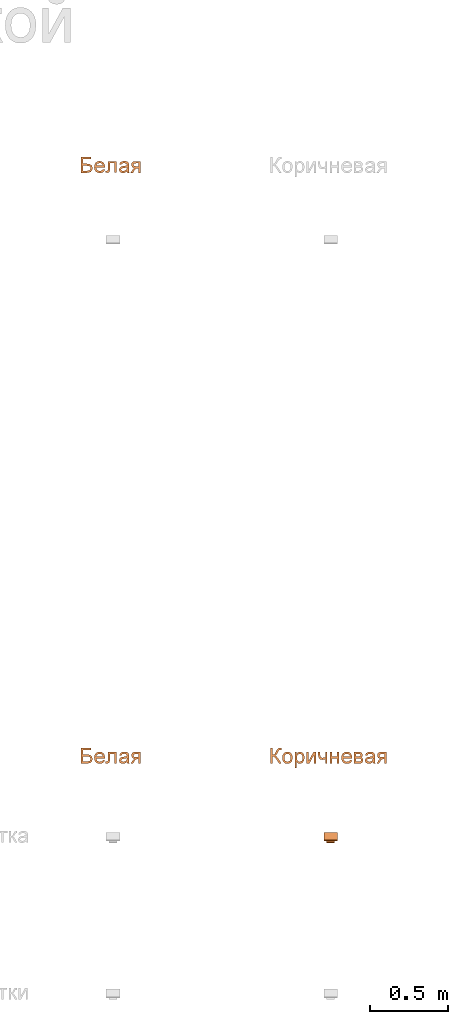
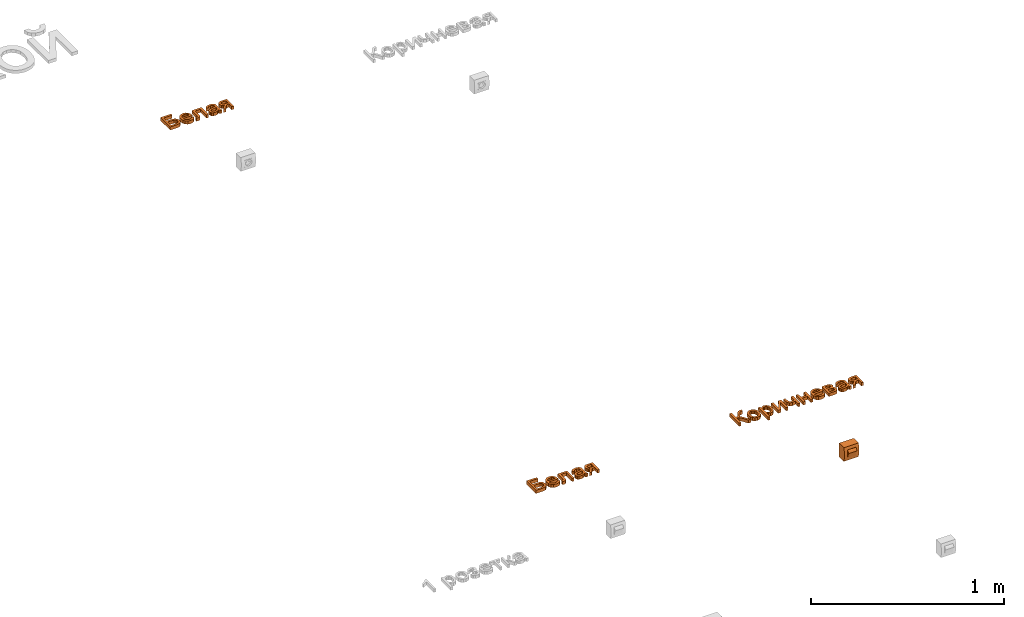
# One storey, part 65 of 87: 4 proxies.
"""IFC2X3 building model written with IfcOpenShell, lengths in millimetres."""

from ifc_helpers import new_model, entity, si_unit, converted_unit, derived_unit, direction, frame, frame_2d, origin, place, context, subcontext, project, spatial, polyline, circle_curve, parameter, trimmed, segment, composite_curve, outline, extrude, source, transform, mapped, material, type_object, type_shapes, element, save


model = new_model("IFC2X3")

# Units and contexts
model_context = context("Model", 3, precision=0.01, world=origin(), true_north=direction((6.12303176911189e-17, 1.0)))
body_context = subcontext(model_context, "Body", "Model", "MODEL_VIEW")
ifc_project = project(units=[si_unit("LENGTHUNIT", "METRE", prefix="MILLI"), si_unit("AREAUNIT", "SQUARE_METRE"), si_unit("VOLUMEUNIT", "CUBIC_METRE"), converted_unit("PLANEANGLEUNIT", "DEGREE", entity("IfcRatioMeasure", 0.0174532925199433), si_unit("PLANEANGLEUNIT", "RADIAN"), dimensions=[0, 0, 0, 0, 0, 0, 0]), si_unit("MASSUNIT", "GRAM", prefix="KILO"), derived_unit("MASSDENSITYUNIT", [(si_unit("MASSUNIT", "GRAM", prefix="KILO"), 1), (si_unit("LENGTHUNIT", "METRE"), -3)]), si_unit("TIMEUNIT", "SECOND"), si_unit("FREQUENCYUNIT", "HERTZ"), si_unit("THERMODYNAMICTEMPERATUREUNIT", "DEGREE_CELSIUS"), derived_unit("THERMALTRANSMITTANCEUNIT", [(si_unit("MASSUNIT", "GRAM", prefix="KILO"), 1), (si_unit("THERMODYNAMICTEMPERATUREUNIT", "KELVIN"), -1), (si_unit("TIMEUNIT", "SECOND"), -3)]), derived_unit("VOLUMETRICFLOWRATEUNIT", [(si_unit("LENGTHUNIT", "METRE"), 3), (si_unit("TIMEUNIT", "SECOND"), -1)]), si_unit("ELECTRICCURRENTUNIT", "AMPERE"), si_unit("ELECTRICVOLTAGEUNIT", "VOLT"), si_unit("POWERUNIT", "WATT"), si_unit("FORCEUNIT", "NEWTON", prefix="KILO"), si_unit("ILLUMINANCEUNIT", "LUX"), si_unit("LUMINOUSFLUXUNIT", "LUMEN"), si_unit("LUMINOUSINTENSITYUNIT", "CANDELA"), derived_unit("USERDEFINED", [(si_unit("MASSUNIT", "GRAM", prefix="KILO"), -1), (si_unit("LENGTHUNIT", "METRE"), -2), (si_unit("TIMEUNIT", "SECOND"), 3), (si_unit("LUMINOUSFLUXUNIT", "LUMEN"), 1)]), derived_unit("LINEARVELOCITYUNIT", [(si_unit("LENGTHUNIT", "METRE"), 1), (si_unit("TIMEUNIT", "SECOND"), -1)]), si_unit("PRESSUREUNIT", "PASCAL"), derived_unit("USERDEFINED", [(si_unit("LENGTHUNIT", "METRE"), -2), (si_unit("MASSUNIT", "GRAM", prefix="KILO"), 1), (si_unit("TIMEUNIT", "SECOND"), -2)])], contexts=[model_context])

# Site, building, storey
site_placement = place(None, origin())
site = spatial("IfcSite", under=ifc_project, at=site_placement, Name="Default", CompositionType="ELEMENT")
building_placement = place(site_placement, origin())
building = spatial("IfcBuilding", under=site, at=building_placement, Name="Наименование здания", CompositionType="ELEMENT")
storey_placement = place(building_placement, origin())
storey = spatial("IfcBuildingStorey", under=building, at=storey_placement, Name="Этаж 01", CompositionType="ELEMENT", Elevation=0.0)

# Proxies
ifc_material = material(Name="DKC_Пластик_Коричневый")
building_element_proxy_type = type_object("IfcBuildingElementProxyType", Name="Коричневая", PredefinedType="NOTDEFINED", material=ifc_material)
shared_shape = source(origin(), body_context, "Body", "SweptSolid", [
    extrude(outline(composite_curve([segment(trimmed(circle_curve(frame_2d((6.58148347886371, 5.82942830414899), x_axis=(1.0, 0.0)), 18.452960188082), [parameter(108.397599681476)], [parameter(174.983430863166)], True, "PARAMETER"), True, "CONTINUOUS"), segment(polyline([(-11.8007917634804, 7.44302571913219), (0.75755790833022, -27.060756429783)]), True, "CONTINUOUS"), segment(polyline([(0.75755790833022, -27.060756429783), (5.1428379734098, -27.0607564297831)]), True, "CONTINUOUS"), segment(polyline([(5.1428379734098, -27.0607564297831), (5.14283797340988, 23.339243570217)]), True, "CONTINUOUS"), segment(polyline([(5.14283797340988, 23.339243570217), (0.757557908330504, 23.339243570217)]), True, "CONTINUOUS")], self_intersect=False)), frame((-25.2, -53.8992082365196, 1.86075642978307), z_axis=(1.0, 0.0, 0.0), x_axis=(0.0, 1.0, 0.0)), (0.0, 0.0, 1.0), 50.4),
    extrude(outline(composite_curve([segment(polyline([(-43.5500000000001, -24.3781851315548), (43.5500000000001, -24.3781851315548)]), True, "CONTINUOUS"), segment(polyline([(43.5500000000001, -24.3781851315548), (43.5499999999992, 24.3781851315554)]), True, "CONTINUOUS"), segment(trimmed(circle_curve(frame_2d((0.0, -117.269759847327), x_axis=(0.0, -1.0)), 148.191574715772), [parameter(162.90982899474)], [parameter(197.09017100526)], True, "PARAMETER"), True, "CONTINUOUS"), segment(polyline([(-43.5500000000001, 24.3781851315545), (-43.5500000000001, -24.3781851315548)]), True, "CONTINUOUS")], self_intersect=False)), frame((-43.85, -24.3781851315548, 0.0), z_axis=(1.0, 0.0, 0.0), x_axis=(0.0, 0.0, 1.0)), (0.0, 0.0, 1.0), 87.7),
])
type_shapes(building_element_proxy_type, [shared_shape])
proxy_1_placement = place(storey_placement, frame((61127.9064877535, 127.135593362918, 0.0)))
element("IfcBuildingElementProxy", 1, at=proxy_1_placement, inside=storey, type_object=building_element_proxy_type, material=ifc_material, Name="КНС_КоробкаВСбореСРозеткойRJ-45_ILF_DKC:Коричневая", ObjectType="Коричневая", context=body_context, shape_type="MappedRepresentation", body=[
    mapped(shared_shape, transform((0.0, 0.0, 0.0), scale=1.0)),
])
proxy_2_placement = place(storey_placement, origin())
element("IfcBuildingElementProxy", 2, at=proxy_2_placement, inside=storey, Name="Текст модели:100 мм Arial", ObjectType="Текст модели:100 мм Arial", context=body_context, shape_type="SweptSolid", body=[
    extrude(outline(polyline([(-50.9950475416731, -42.7620371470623), (49.4612626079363, -42.7620371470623), (49.4612626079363, -4.42873324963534), (45.2428823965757, 17.8649156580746), (34.3658380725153, 27.7118903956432), (20.055228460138, 31.0105656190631), (3.57411507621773, 26.3752524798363), (-6.06439319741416, 14.0389429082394), (-8.61504169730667, -6.68507615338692), (-8.61504169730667, -30.2049983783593), (-38.4380087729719, -30.2049983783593), (-38.4380087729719, 20.0231566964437), (-50.9950475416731, 20.0231566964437), (-50.9950475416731, -42.7620371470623)]), holes=[polyline([(36.9042238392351, -30.2049983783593), (3.9419970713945, -30.2049983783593), (3.9419970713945, -12.2523570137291), (5.24184678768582, 6.66904027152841), (10.4902965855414, 15.3387926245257), (20.3250085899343, 18.4535268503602), (27.5784152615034, 17.0923634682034), (32.7594200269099, 13.0088733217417), (36.9042238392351, -3.30056179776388), (36.9042238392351, -30.2049983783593)])]), frame((59565.51887875, 621.336447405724, 0.0), z_axis=(0.0, 0.0, 1.0), x_axis=(0.0, -1.0, 0.0)), (0.0, 0.0, 1.0), 20.0),
    extrude(outline(polyline([(-8.10128238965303, -20.3751729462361), (-15.5352214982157, -30.3140016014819), (-5.78400372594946, -33.5775071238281), (4.12185089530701, -33.3132173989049), (13.8776168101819, -29.4480778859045), (23.1785684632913, -21.9090340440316), (31.638042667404, -9.59237957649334), (34.1620486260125, 3.74135328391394), (30.60405086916, 17.244220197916), (20.8175139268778, 30.0682768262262), (7.27698270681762, 39.7846728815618), (-6.6617952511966, 43.1117813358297), (-19.9642596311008, 40.4221234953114), (-31.5958501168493, 32.0882206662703), (-39.2435519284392, 20.5090048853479), (-41.3106827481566, 7.34319797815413), (-37.4373707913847, -6.34962495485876), (-27.263744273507, -19.5098888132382), (-24.7804584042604, -21.810680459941), (14.4643272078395, 18.7422646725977), (19.7071986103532, 10.6437992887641), (21.1614672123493, 2.21005051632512), (19.14720855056, -5.98136753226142), (13.9844981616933, -13.3528407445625), (3.53684605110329, -20.3751729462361), (-8.10128238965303, -20.3751729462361)]), holes=[polyline([(5.44081225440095, 27.4746984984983), (-25.1227061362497, -4.10760383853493), (-29.8038819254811, 7.41909510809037), (-27.8851342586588, 15.749871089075), (-22.5382240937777, 23.3910349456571), (-8.40970331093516, 31.2368652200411), (-1.08072680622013, 30.9147288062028), (5.44081225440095, 27.4746984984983)])]), frame((59643.6009266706, 602.197735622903, 0.0), z_axis=(0.0, 0.0, -1.0), x_axis=(-0.695421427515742, -0.718602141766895, 0.0)), (0.0, 0.0, -1.0), 20.0),
    extrude(outline(polyline([(-49.3689973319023, 12.5447760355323), (-49.3689973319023, -43.9618984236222), (24.3300290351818, -43.9618984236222), (24.3300290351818, -31.4048596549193), (-36.8119585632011, -31.4048596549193), (-36.8119585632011, -0.0122627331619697), (-1.61791435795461, -0.0122627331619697), (14.6179443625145, 0.833865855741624), (21.4728122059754, 5.48144172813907), (24.4036054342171, 16.4688506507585), (23.765943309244, 26.6714446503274), (11.846566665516, 26.6714446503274), (11.846566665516, 21.0551128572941), (11.0740144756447, 15.3774673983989), (8.62146784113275, 13.1088617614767), (-2.32915288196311, 12.5447760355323), (-49.3689973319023, 12.5447760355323)])), frame((59707.9609007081, 596.278790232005, 0.0), z_axis=(0.0, 0.0, -1.0), x_axis=(0.0, -1.0, 0.0)), (0.0, 0.0, -1.0), 20.0),
    extrude(outline(polyline([(32.0508237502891, 7.88266535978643), (41.9780345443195, 7.88266535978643), (45.9489188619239, 19.7953183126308), (35.141443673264, 20.7608946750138), (14.2438893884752, 27.0545912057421), (-0.577126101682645, 31.9949297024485), (-11.1945882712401, 34.8877809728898), (-20.4974705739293, 33.9299602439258), (-28.5323068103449, 27.5470739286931), (-35.461965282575, 13.8157249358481), (-38.3044049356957, -2.6998964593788), (-34.9462156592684, -15.3493345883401), (-25.0306383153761, -24.3807697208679), (-19.5706723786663, -12.9644773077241), (-25.7868125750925, -4.50695904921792), (-24.0611841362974, 8.30922519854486), (-16.2279943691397, 20.3304570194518), (-6.33956174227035, 20.6794605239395), (-3.71040200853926, 19.725517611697), (-6.50243004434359, -2.30048133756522), (-8.14662433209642, -13.2049019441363), (-7.01817966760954, -22.8490321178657), (-2.17478658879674, -31.1204151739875), (6.48825595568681, -36.541602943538), (15.0010331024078, -37.7020395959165), (22.9495879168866, -35.3200906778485), (29.637852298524, -29.3899394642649), (34.3697581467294, -19.9057692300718), (36.2737661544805, -6.36055543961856), (32.0508237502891, 7.88266535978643)]), holes=[polyline([(8.22551784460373, 15.8244339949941), (11.5759514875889, 14.6300664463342), (20.1614376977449, 9.6742166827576), (24.4696920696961, -0.396473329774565), (23.3024692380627, -13.3987927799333), (17.2491973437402, -22.9498553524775), (9.62153186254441, -24.349747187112), (5.58084684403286, -21.1932043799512), (3.98706417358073, -15.5044472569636), (5.47226797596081, -4.61166010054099), (8.22551784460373, 15.8244339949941)])]), frame((59800.2337393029, 609.206327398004, 0.0), z_axis=(0.0, 0.0, 1.0), x_axis=(0.316227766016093, -0.948683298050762, 0.0)), (0.0, 0.0, 1.0), 20.0),
    extrude(outline(polyline([(-36.1880068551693, -39.1855638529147), (-3.42198381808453, -39.1855638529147), (7.43666640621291, -37.7079045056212), (15.3890488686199, -33.2749264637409), (20.2634853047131, -26.4691095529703), (21.8882974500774, -17.8729335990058), (17.130356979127, -3.64816311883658), (11.0970922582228, 1.34890064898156), (2.51317903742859, 3.97925691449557), (13.2062823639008, 14.4271055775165), (25.8123720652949, 34.5870389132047), (11.2932959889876, 34.5870389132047), (1.28690572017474, 18.645485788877), (-7.46868576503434, 7.92785699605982), (-16.7883629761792, 6.3337016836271), (-23.6309680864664, 6.3337016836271), (-23.6309680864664, 34.5870389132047), (-36.1880068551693, 34.5870389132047), (-36.1880068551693, -39.1855638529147)]), holes=[polyline([(-23.6309680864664, -26.6285250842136), (-23.6309680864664, -6.22333708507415), (-10.7796237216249, -6.22333708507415), (4.90441200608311, -8.81077378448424), (9.33125868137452, -16.9164404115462), (6.32688905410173, -23.7222573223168), (-7.07627830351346, -26.6285250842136), (-23.6309680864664, -26.6285250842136)])]), frame((59867.988887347, 606.462223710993, 0.0), z_axis=(0.0, 0.0, 1.0), x_axis=(-1.0, 0.0, 0.0)), (0.0, 0.0, 1.0), 20.0),
])
proxy_3_placement = place(storey_placement, origin())
element("IfcBuildingElementProxy", 3, at=proxy_3_placement, inside=storey, Name="Текст модели:100 мм Arial", ObjectType="Текст модели:100 мм Arial", context=body_context, shape_type="SweptSolid", body=[
    extrude(outline(polyline([(-40.1432833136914, -39.8663907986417), (60.313026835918, -39.8663907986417), (60.313026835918, -27.3093520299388), (13.2241314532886, -27.3093520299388), (17.2340452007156, -14.2250157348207), (32.0106386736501, -1.65571423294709), (60.313026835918, 16.1988252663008), (60.313026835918, 30.766952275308), (26.8112398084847, 9.65052575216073), (14.9777022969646, 0.0917252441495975), (9.30005683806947, -9.60196532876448), (4.10065797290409, -0.932212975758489), (-24.5696121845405, 15.414010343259), (-27.5862445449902, 25.2241968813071), (-27.4390917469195, 30.766952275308), (-39.9961305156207, 30.766952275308), (-40.1432833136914, 22.5263955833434), (-37.3228546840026, 11.305994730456), (-30.3698849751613, 3.45784550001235), (-16.3290554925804, -3.47059874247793), (0.483151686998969, -13.2685225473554), (3.80635237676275, -27.3093520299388), (-40.1432833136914, -27.3093520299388), (-40.1432833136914, -39.8663907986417)])), frame((60780.5461702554, 632.188211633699, 0.0), z_axis=(0.0, 0.0, 1.0), x_axis=(0.0, -1.0, 0.0)), (0.0, 0.0, 1.0), 20.0),
    extrude(outline(polyline([(-2.3402974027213, -31.698490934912), (14.273181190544, -31.698490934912), (27.1869525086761, -26.5873672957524), (35.9909592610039, -17.1811275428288), (40.2751441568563, -4.2957792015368), (38.1491713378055, 13.1690451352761), (27.2514955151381, 26.6485362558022), (5.67797919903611, 33.7446283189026), (-10.1280544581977, 33.608108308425), (-22.8059382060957, 28.3900569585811), (-31.6389568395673, 18.9754531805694), (-35.9103951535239, 6.24927588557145), (-35.5406401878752, -5.97109031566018), (-30.8535887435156, -16.7835237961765), (-19.5870121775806, -26.569234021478), (-2.3402974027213, -31.698490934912)]), holes=[polyline([(-0.642949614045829, -19.2566729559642), (-11.694809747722, -16.2599663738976), (-19.0989004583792, -10.8341828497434), (-22.9822632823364, -3.67356758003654), (-23.4719397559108, 4.52763423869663), (-20.7783225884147, 12.204664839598), (-15.0781786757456, 18.0357050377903), (-6.56600936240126, 21.2863283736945), (4.56368400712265, 21.2221083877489), (15.8675929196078, 18.1905150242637), (23.3961896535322, 12.7474982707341), (27.3267847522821, 5.59272509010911), (27.8366887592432, -2.57413755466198), (25.1317228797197, -10.333159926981), (19.4311586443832, -16.1672368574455), (10.8134498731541, -19.3753979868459), (-0.642949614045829, -19.2566729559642)])]), frame((60849.3116538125, 610.78933348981, 0.0), z_axis=(0.0, 0.0, 1.0), x_axis=(0.137105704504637, -0.990556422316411, 0.0)), (0.0, 0.0, 1.0), 20.0),
    extrude(outline(polyline([(-28.8983569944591, -61.2335493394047), (-16.3413182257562, -61.2335493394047), (-16.3413182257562, -23.1700255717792), (-8.38280439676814, -31.3247431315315), (2.54329085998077, -34.5498419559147), (18.4235303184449, -29.7305878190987), (29.9259740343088, -15.8736993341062), (33.8868368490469, 4.47017499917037), (30.3796951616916, 23.8207679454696), (19.9808974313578, 37.5059781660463), (4.06386977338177, 42.36202050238), (-7.6593031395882, 38.8916670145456), (-16.3413182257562, 28.4806065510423), (-16.3413182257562, 40.7923906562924), (-28.8983569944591, 40.7923906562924), (-28.8983569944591, -61.2335493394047)]), holes=[polyline([(-16.3413182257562, 3.31747808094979), (-14.8912500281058, 14.7064915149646), (-10.5410454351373, 23.0236902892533), (-4.30851130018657, 28.1096588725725), (2.78854552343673, 29.8049817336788), (9.85801119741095, 28.210826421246), (15.8606190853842, 23.4283604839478), (19.9625033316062, 15.4453211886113), (21.329798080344, 4.24944580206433), (19.9287808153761, -7.43080754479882), (15.7257290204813, -15.5916564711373), (9.56063991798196, -20.3925165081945), (2.27351073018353, -21.9928031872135), (-4.89712249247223, -20.447698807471), (-10.908927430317, -15.8123856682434), (-14.9832205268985, -7.93971097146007), (-16.3413182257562, 3.31747808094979)])]), frame((60926.5411210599, 604.855396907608, 0.0)), (0.0, 0.0, 1.0), 20.0),
    extrude(outline(polyline([(-36.9206370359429, -29.8425874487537), (36.8519657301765, -29.8425874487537), (36.8519657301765, -13.4105249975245), (-19.0660975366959, 17.2463079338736), (36.8519657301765, 17.2463079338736), (36.8519657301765, 29.8033467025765), (-36.9206370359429, 29.8033467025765), (-36.9206370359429, 13.5674879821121), (19.3407827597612, -17.2855486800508), (-36.9206370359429, -17.2855486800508), (-36.9206370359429, -29.8425874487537)])), frame((61004.3972139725, 608.727150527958, 0.0), z_axis=(0.0, 0.0, 1.0), x_axis=(0.0, -1.0, 0.0)), (0.0, 0.0, 1.0), 20.0),
    extrude(outline(polyline([(-30.7618325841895, -26.323489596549), (-10.4056955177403, -26.323489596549), (3.94170229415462, -24.1161976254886), (14.9658994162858, -15.7407508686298), (19.4663224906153, -1.50371765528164), (15.1498404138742, 19.1957759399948), (43.0107701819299, 19.1957759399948), (43.0107701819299, 31.7528147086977), (-30.7618325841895, 31.7528147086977), (-30.7618325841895, 19.1957759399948), (3.10783643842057, 19.1957759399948), (6.90928372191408, 1.85627123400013), (3.84360042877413, -7.85581343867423), (-3.34236121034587, -12.748643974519), (-16.6106385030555, -13.7664508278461), (-30.7618325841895, -13.7664508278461), (-30.7618325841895, -26.323489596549)])), frame((61074.6507188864, 614.885954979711, 0.0), z_axis=(0.0, 0.0, 1.0), x_axis=(0.0, -1.0, 0.0)), (0.0, 0.0, 1.0), 20.0),
    extrude(outline(polyline([(-36.1014864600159, -29.0381521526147), (37.6711163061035, -29.0381521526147), (37.6711163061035, -16.4811133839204), (4.70888953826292, -16.4811133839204), (4.70888953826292, 16.4811133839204), (37.6711163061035, 16.4811133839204), (37.6711163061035, 29.0381521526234), (-36.1014864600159, 29.0381521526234), (-36.1014864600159, 16.4811133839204), (-7.84814923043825, 16.4811133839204), (-7.84814923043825, -16.4811133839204), (-36.1014864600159, -16.4811133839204), (-36.1014864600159, -29.0381521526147)])), frame((61154.2772439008, 609.546301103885, 0.0), z_axis=(0.0, 0.0, 1.0), x_axis=(0.0, -1.0, 0.0)), (0.0, 0.0, 1.0), 20.0),
    extrude(outline(polyline([(-8.101282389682, -20.3751729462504), (-15.535221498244, -30.3140016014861), (-5.7840037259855, -33.5775071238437), (4.12185089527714, -33.3132173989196), (13.8776168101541, -29.4480778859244), (23.1785684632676, -21.9090340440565), (31.6380426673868, -9.59237957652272), (34.1620486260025, 3.7413532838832), (30.6040508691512, 17.244220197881), (20.8175139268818, 30.0682768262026), (7.27698270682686, 39.7846728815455), (-6.66179525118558, 43.1117813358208), (-19.9642596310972, 40.4221234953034), (-31.5958501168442, 32.0882206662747), (-39.2435519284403, 20.5090048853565), (-41.3106827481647, 7.34319797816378), (-37.4373707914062, -6.3496249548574), (-27.2637442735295, -19.509888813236), (-24.7804584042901, -21.8106804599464), (14.4643272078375, 18.7422646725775), (19.7071986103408, 10.6437992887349), (21.1614672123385, 2.21005051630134), (19.1472085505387, -5.98136753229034), (13.9844981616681, -13.3528407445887), (3.53684605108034, -20.3751729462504), (-8.101282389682, -20.3751729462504)]), holes=[polyline([(5.4408122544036, 27.474698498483), (-25.12270613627, -4.10760383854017), (-29.8038819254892, 7.41909510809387), (-27.8851342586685, 15.7498710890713), (-22.5382240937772, 23.3910349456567), (-8.40970331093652, 31.2368652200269), (-1.08072680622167, 30.9147288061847), (5.4408122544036, 27.474698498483)])]), frame((61233.5261380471, 602.197735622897, 0.0), z_axis=(0.0, 0.0, -1.0), x_axis=(-0.695421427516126, -0.718602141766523, 0.0)), (0.0, 0.0, -1.0), 20.0),
    extrude(outline(polyline([(-37.9619182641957, -40.7346098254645), (35.8106845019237, -40.7346098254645), (35.8106845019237, -8.82697811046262), (34.480177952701, 2.14816807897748), (30.4886583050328, 10.1557328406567), (23.7502864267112, 15.214110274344), (14.1792231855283, 17.3416944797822), (2.34568567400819, 13.9817055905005), (-4.46013123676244, 5.54494516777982), (-10.6773369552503, 12.0441937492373), (-19.3961402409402, 14.2024347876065), (-30.12603176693, 10.6339794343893), (-36.281923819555, 2.09911714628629), (-37.9619182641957, -13.0698837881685), (-37.9619182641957, -40.7346098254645)]), holes=[polyline([(-9.70858103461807, -28.1775710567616), (-25.4048794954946, -28.1775710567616), (-25.4048794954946, -15.3752776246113), (-23.663571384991, -2.20510219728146), (-17.5076793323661, 1.64539601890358), (-12.8968916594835, -0.549633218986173), (-10.3462431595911, -5.52830288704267), (-9.70858103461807, -15.7676850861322), (-9.70858103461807, -28.1775710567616)]), polyline([(23.2536457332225, -28.1775710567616), (2.84845773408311, -28.1775710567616), (2.84845773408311, -14.0018515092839), (3.58422172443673, -2.95312892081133), (7.10362614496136, 2.63867740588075), (13.1491535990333, 4.78465571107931), (20.985040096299, 0.885106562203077), (23.2536457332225, -12.77557819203), (23.2536457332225, -28.1775710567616)])]), frame((61319.7974264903, 607.685869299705, 0.0), z_axis=(0.0, 0.0, 1.0), x_axis=(0.0, -1.0, 0.0)), (0.0, 0.0, 1.0), 20.0),
    extrude(outline(polyline([(32.0508237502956, 7.88266535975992), (41.9780345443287, 7.88266535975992), (45.9489188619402, 19.7953183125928), (35.1414436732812, 20.7608946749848), (14.2438893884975, 27.0545912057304), (-0.577126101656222, 31.994929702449), (-11.1945882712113, 34.8877809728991), (-20.4974705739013, 33.9299602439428), (-28.5323068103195, 27.547073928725), (-35.4619652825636, 13.8157249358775), (-38.304404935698, -2.69989645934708), (-34.9462156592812, -15.3493345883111), (-25.0306383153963, -24.3807697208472), (-19.5706723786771, -12.9644773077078), (-25.7868125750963, -4.50695904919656), (-24.0611841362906, 8.3092251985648), (-16.2279943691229, 20.3304570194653), (-6.3395617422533, 20.6794605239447), (-3.710402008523, 19.7255176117), (-6.50243004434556, -2.30048133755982), (-8.14662433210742, -13.2049019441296), (-7.01817966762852, -22.8490321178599), (-2.17478658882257, -31.1204151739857), (6.4882559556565, -36.5416029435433), (15.0010331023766, -37.7020395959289), (22.9495879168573, -35.3200906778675), (29.6378522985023, -29.3899394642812), (34.3697581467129, -19.9057692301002), (36.2737661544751, -6.36055543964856), (32.0508237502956, 7.88266535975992)]), holes=[polyline([(8.22551784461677, 15.8244339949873), (11.575951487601, 14.6300664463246), (20.1614376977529, 9.67421668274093), (24.4696920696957, -0.396473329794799), (23.3024692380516, -13.3987927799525), (17.2491973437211, -22.9498553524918), (9.62153186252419, -24.34974718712), (5.58084684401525, -21.1932043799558), (3.98706417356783, -15.5044472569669), (5.47226797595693, -4.6116601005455), (8.22551784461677, 15.8244339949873)])]), frame((61382.3108014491, 609.206327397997, 0.0), z_axis=(0.0, 0.0, 1.0), x_axis=(0.316227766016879, -0.9486832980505, 0.0)), (0.0, 0.0, 1.0), 20.0),
    extrude(outline(polyline([(-36.1880068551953, -39.1855638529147), (-3.42198381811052, -39.1855638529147), (7.43666640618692, -37.7079045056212), (15.389048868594, -33.2749264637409), (20.2634853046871, -26.4691095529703), (21.8882974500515, -17.8729335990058), (17.1303569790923, -3.64816311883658), (11.0970922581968, 1.34890064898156), (2.5131790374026, 3.97925691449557), (13.2062823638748, 14.4271055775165), (25.812372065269, 34.5870389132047), (11.2932959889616, 34.5870389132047), (1.28690572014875, 18.645485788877), (-7.46868576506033, 7.92785699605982), (-16.7883629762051, 6.3337016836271), (-23.6309680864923, 6.3337016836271), (-23.6309680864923, 34.5870389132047), (-36.1880068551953, 34.5870389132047), (-36.1880068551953, -39.1855638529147)]), holes=[polyline([(-23.6309680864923, -26.6285250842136), (-23.6309680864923, -6.22333708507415), (-10.7796237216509, -6.22333708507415), (4.90441200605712, -8.81077378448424), (9.33125868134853, -16.9164404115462), (6.32688905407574, -23.7222573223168), (-7.07627830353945, -26.6285250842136), (-23.6309680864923, -26.6285250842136)])]), frame((61450.0659494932, 606.462223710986, 0.0), z_axis=(0.0, 0.0, 1.0), x_axis=(-1.0, 0.0, 0.0)), (0.0, 0.0, 1.0), 20.0),
])
proxy_4_placement = place(storey_placement, origin())
element("IfcBuildingElementProxy", 4, at=proxy_4_placement, inside=storey, Name="Текст модели:100 мм Arial", ObjectType="Текст модели:100 мм Arial", context=body_context, shape_type="SweptSolid", body=[
    extrude(outline(polyline([(-50.9950475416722, -42.7620371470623), (49.4612626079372, -42.7620371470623), (49.4612626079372, -4.42873324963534), (45.2428823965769, 17.8649156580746), (34.3658380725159, 27.7118903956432), (20.0552284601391, 31.0105656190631), (3.57411507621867, 26.3752524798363), (-6.06439319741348, 14.0389429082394), (-8.61504169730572, -6.68507615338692), (-8.61504169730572, -30.2049983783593), (-38.4380087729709, -30.2049983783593), (-38.4380087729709, 20.0231566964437), (-50.9950475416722, 20.0231566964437), (-50.9950475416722, -42.7620371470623)]), holes=[polyline([(36.9042238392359, -30.2049983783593), (3.94199707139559, -30.2049983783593), (3.94199707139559, -12.2523570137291), (5.24184678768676, 6.66904027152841), (10.4902965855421, 15.3387926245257), (20.3250085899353, 18.4535268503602), (27.5784152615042, 17.0923634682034), (32.7594200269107, 13.0088733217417), (36.9042238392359, -3.30056179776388), (36.9042238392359, -30.2049983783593)])]), frame((59565.51887875, 4421.33644740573, 0.0), z_axis=(0.0, 0.0, 1.0), x_axis=(0.0, -1.0, 0.0)), (0.0, 0.0, 1.0), 20.0),
    extrude(outline(polyline([(-8.10128238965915, -20.3751729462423), (-15.5352214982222, -30.3140016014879), (-5.7840037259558, -33.5775071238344), (4.12185089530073, -33.3132173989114), (13.8776168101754, -29.4480778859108), (23.1785684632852, -21.9090340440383), (31.6380426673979, -9.59237957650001), (34.1620486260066, 3.74135328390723), (30.6040508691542, 17.2442201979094), (20.8175139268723, 30.0682768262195), (7.27698270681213, 39.7846728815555), (-6.66179525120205, 43.1117813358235), (-19.9642596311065, 40.4221234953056), (-31.5958501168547, 32.0882206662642), (-39.2435519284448, 20.5090048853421), (-41.3106827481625, 7.34319797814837), (-37.4373707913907, -6.34962495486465), (-27.2637442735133, -19.5098888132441), (-24.7804584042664, -21.8106804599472), (14.464327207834, 18.742264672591), (19.7071986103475, 10.6437992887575), (21.1614672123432, 2.21005051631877), (19.1472085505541, -5.98136753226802), (13.9844981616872, -13.352840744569), (3.53684605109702, -20.3751729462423), (-8.10128238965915, -20.3751729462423)]), holes=[polyline([(5.4408122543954, 27.4746984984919), (-25.1227061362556, -4.10760383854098), (-29.8038819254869, 7.41909510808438), (-27.8851342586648, 15.7498710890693), (-22.5382240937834, 23.3910349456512), (-8.40970331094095, 31.2368652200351), (-1.08072680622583, 30.9147288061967), (5.4408122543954, 27.4746984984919)])]), frame((59643.6009266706, 4402.19773562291, 0.0), z_axis=(0.0, 0.0, -1.0), x_axis=(-0.69542142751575, -0.718602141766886, 0.0)), (0.0, 0.0, -1.0), 20.0),
    extrude(outline(polyline([(-49.368997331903, 12.5447760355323), (-49.368997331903, -43.9618984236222), (24.3300290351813, -43.9618984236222), (24.3300290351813, -31.4048596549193), (-36.8119585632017, -31.4048596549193), (-36.8119585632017, -0.0122627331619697), (-1.61791435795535, -0.0122627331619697), (14.617944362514, 0.833865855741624), (21.4728122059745, 5.48144172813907), (24.4036054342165, 16.4688506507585), (23.7659433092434, 26.6714446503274), (11.8465666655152, 26.6714446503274), (11.8465666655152, 21.0551128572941), (11.074014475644, 15.3774673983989), (8.62146784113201, 13.1088617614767), (-2.32915288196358, 12.5447760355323), (-49.368997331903, 12.5447760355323)])), frame((59707.9609007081, 4396.27879023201, 0.0), z_axis=(0.0, 0.0, -1.0), x_axis=(0.0, -1.0, 0.0)), (0.0, 0.0, -1.0), 20.0),
    extrude(outline(polyline([(32.0508237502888, 7.88266535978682), (41.9780345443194, 7.88266535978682), (45.9489188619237, 19.7953183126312), (35.1414436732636, 20.7608946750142), (14.2438893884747, 27.0545912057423), (-0.577126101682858, 31.9949297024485), (-11.1945882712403, 34.8877809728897), (-20.4974705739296, 33.9299602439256), (-28.5323068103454, 27.5470739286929), (-35.4619652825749, 13.8157249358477), (-38.3044049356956, -2.69989645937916), (-34.9462156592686, -15.3493345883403), (-25.0306383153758, -24.3807697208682), (-19.5706723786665, -12.9644773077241), (-25.7868125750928, -4.50695904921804), (-24.0611841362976, 8.30922519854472), (-16.2279943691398, 20.3304570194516), (-6.33956174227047, 20.6794605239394), (-3.71040200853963, 19.725517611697), (-6.50243004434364, -2.30048133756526), (-8.1466243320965, -13.2049019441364), (-7.01817966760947, -22.8490321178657), (-2.17478658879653, -31.1204151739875), (6.488255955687, -36.5416029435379), (15.0010331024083, -37.7020395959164), (22.9495879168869, -35.3200906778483), (29.6378522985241, -29.3899394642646), (34.3697581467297, -19.9057692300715), (36.2737661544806, -6.36055543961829), (32.0508237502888, 7.88266535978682)]), holes=[polyline([(8.22551784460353, 15.8244339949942), (11.5759514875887, 14.6300664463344), (20.1614376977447, 9.67421668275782), (24.4696920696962, -0.396473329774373), (23.3024692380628, -13.398792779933), (17.2491973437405, -22.9498553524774), (9.62153186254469, -24.349747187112), (5.58084684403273, -21.1932043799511), (3.98706417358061, -15.5044472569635), (5.47226797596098, -4.61166010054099), (8.22551784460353, 15.8244339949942)])]), frame((59800.2337393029, 4409.20632739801, 0.0), z_axis=(0.0, 0.0, 1.0), x_axis=(0.316227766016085, -0.948683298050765, 0.0)), (0.0, 0.0, 1.0), 20.0),
    extrude(outline(polyline([(-36.1880068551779, -39.1855638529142), (-3.42198381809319, -39.1855638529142), (7.43666640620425, -37.7079045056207), (15.3890488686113, -33.2749264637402), (20.2634853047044, -26.4691095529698), (21.8882974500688, -17.8729335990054), (17.1303569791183, -3.64816311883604), (11.0970922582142, 1.34890064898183), (2.51317903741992, 3.97925691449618), (13.2062823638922, 14.4271055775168), (25.8123720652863, 34.5870389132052), (11.2932959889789, 34.5870389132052), (1.28690572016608, 18.6454857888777), (-7.46868576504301, 7.92785699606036), (-16.7883629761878, 6.33370168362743), (-23.630968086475, 6.33370168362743), (-23.630968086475, 34.5870389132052), (-36.1880068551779, 34.5870389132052), (-36.1880068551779, -39.1855638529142)]), holes=[polyline([(-23.630968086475, -26.6285250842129), (-23.630968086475, -6.22333708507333), (-10.7796237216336, -6.22333708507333), (4.90441200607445, -8.81077378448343), (9.33125868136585, -16.9164404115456), (6.32688905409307, -23.7222573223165), (-7.07627830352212, -26.6285250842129), (-23.630968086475, -26.6285250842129)])]), frame((59867.988887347, 4406.462223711, 0.0), z_axis=(0.0, 0.0, 1.0), x_axis=(-1.0, 0.0, 0.0)), (0.0, 0.0, 1.0), 20.0),
])

save(model, "model.ifc")
